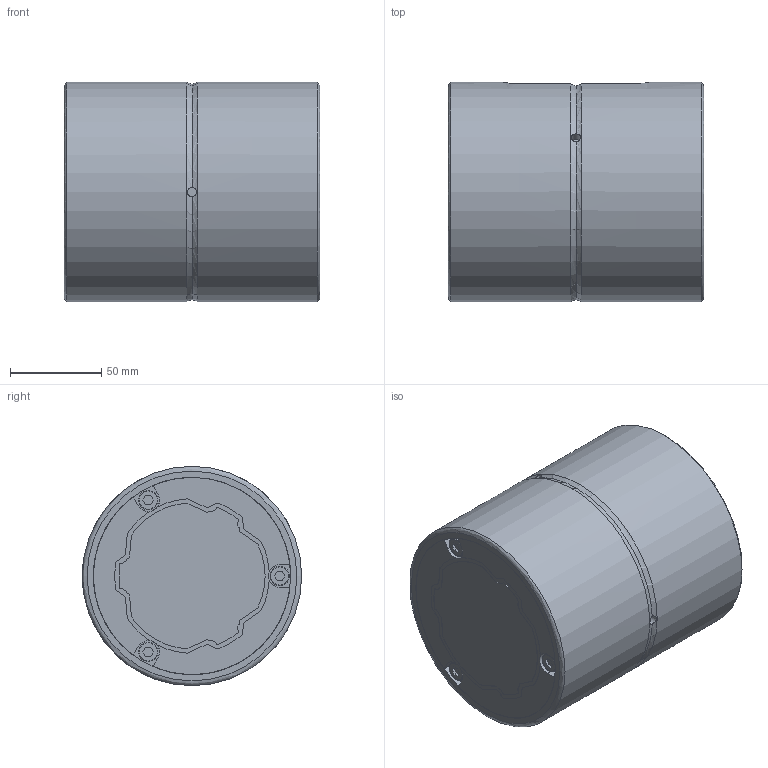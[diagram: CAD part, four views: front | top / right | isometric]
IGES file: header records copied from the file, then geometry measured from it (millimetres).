
Start section: Data from Parasolid IGES Translator 26.0.171, Copyright(c) 2006 Siemens PLM Software. All Rights Reserved.
Global section: file name: SLS801140(00).igs; native system: By Siemens PLM Incorporated; preprocessor: XPlus GENERIC/IGES 26.0.171; author: Noname; organization: Noname; date: 20240523.114728; units: millimetre
Bounding box: 140 x 120 x 120 mm (x, y, z)
Surface area: 151261.1 mm2 (no closed solid volume)
Topology: 0 solids, 0 shells, 267 faces, 1474 edges, 1441 vertices
Faces by surface type: extrusion 144, revolution 123
